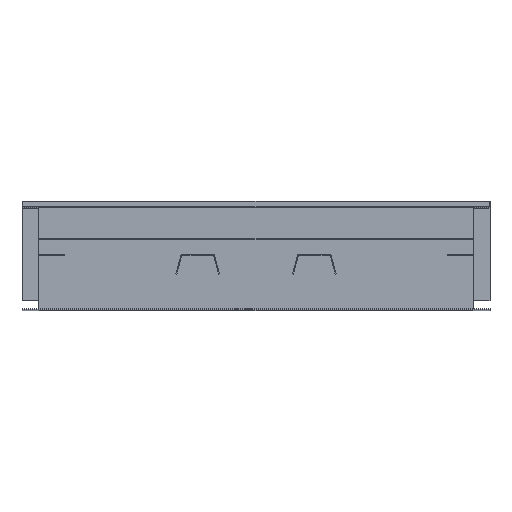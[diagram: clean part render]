
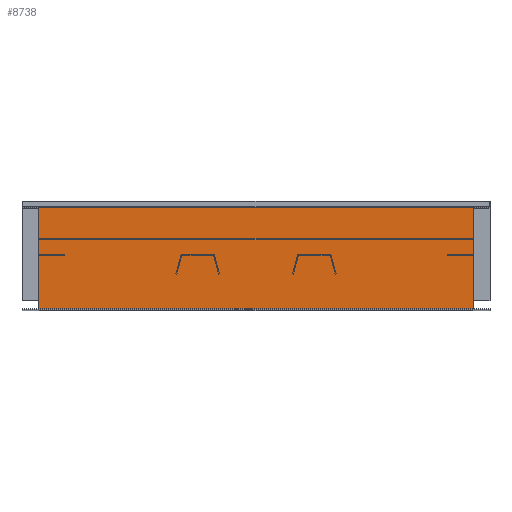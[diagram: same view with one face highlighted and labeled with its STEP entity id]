
A CAD part, top view. The second image highlights one B-rep face of the part: STEP entity #8738.
In plain terms, the highlighted planar face has unit normal (0, 0, 1).
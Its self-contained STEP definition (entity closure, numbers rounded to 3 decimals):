
#3031=DIRECTION('',(1.,0.,0.));
#3032=VECTOR('',#3031,1004.);
#3033=CARTESIAN_POINT('',(-502.,-248.,502.));
#3034=LINE('',#3033,#3032);
#3091=DIRECTION('',(0.,-1.,0.));
#3092=VECTOR('',#3091,234.);
#3093=CARTESIAN_POINT('',(-502.,-14.,502.));
#3094=LINE('',#3093,#3092);
#3095=DIRECTION('',(1.,0.,0.));
#3096=VECTOR('',#3095,1004.);
#3097=CARTESIAN_POINT('',(-502.,-14.,502.));
#3098=LINE('',#3097,#3096);
#3107=DIRECTION('',(0.,-1.,0.));
#3108=VECTOR('',#3107,234.);
#3109=CARTESIAN_POINT('',(502.,-14.,502.));
#3110=LINE('',#3109,#3108);
#3779=CARTESIAN_POINT('',(-502.,-14.,502.));
#3780=CARTESIAN_POINT('',(-502.,-248.,502.));
#3781=VERTEX_POINT('',#3779);
#3782=VERTEX_POINT('',#3780);
#3799=CARTESIAN_POINT('',(502.,-14.,502.));
#3800=CARTESIAN_POINT('',(502.,-248.,502.));
#3801=VERTEX_POINT('',#3799);
#3802=VERTEX_POINT('',#3800);
#8726=CARTESIAN_POINT('',(-500.,-14.,502.));
#8727=DIRECTION('',(0.,0.,1.));
#8728=DIRECTION('',(0.,-1.,0.));
#8729=AXIS2_PLACEMENT_3D('',#8726,#8727,#8728);
#8730=PLANE('',#8729);
#8731=ORIENTED_EDGE('',*,*,#8719,.F.);
#8732=ORIENTED_EDGE('',*,*,#4834,.T.);
#8734=ORIENTED_EDGE('',*,*,#8733,.T.);
#8735=ORIENTED_EDGE('',*,*,#8634,.F.);
#8736=EDGE_LOOP('',(#8731,#8732,#8734,#8735));
#8737=FACE_OUTER_BOUND('',#8736,.F.);
#4834=EDGE_CURVE('',#3781,#3801,#3098,.T.);
#8634=EDGE_CURVE('',#3782,#3802,#3034,.T.);
#8719=EDGE_CURVE('',#3781,#3782,#3094,.T.);
#8733=EDGE_CURVE('',#3801,#3802,#3110,.T.);
#8738=ADVANCED_FACE('',(#8737),#8730,.T.);
